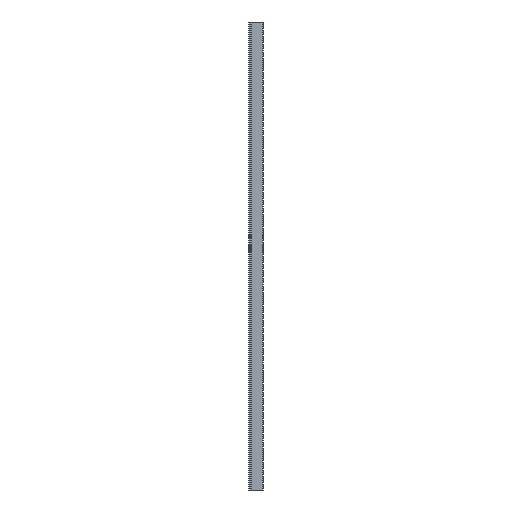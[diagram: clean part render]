
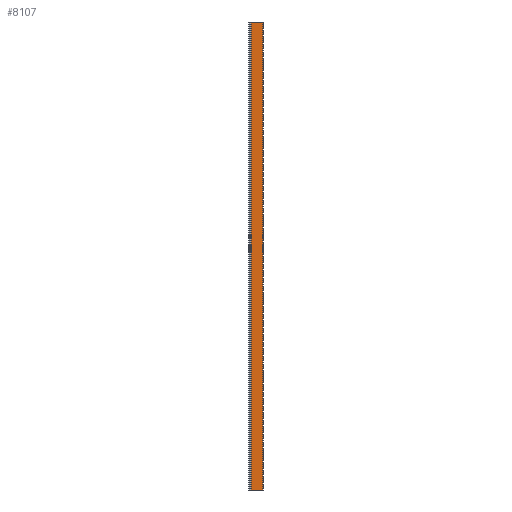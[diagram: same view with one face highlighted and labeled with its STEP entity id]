
A CAD part, left-side view. The second image highlights one B-rep face of the part: STEP entity #8107.
In plain terms, the highlighted planar face has unit normal (-1, 0, 0).
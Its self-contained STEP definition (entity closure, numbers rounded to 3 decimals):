
#35 = DIRECTION ( 'NONE',  ( 0., 0., -1. ) ) ;
#145 = LINE ( 'NONE', #16044, #12117 ) ;
#632 = CARTESIAN_POINT ( 'NONE',  ( 0., 4., -1500. ) ) ;
#690 = CARTESIAN_POINT ( 'NONE',  ( 0., 76.58, -1500. ) ) ;
#1518 = CARTESIAN_POINT ( 'NONE',  ( 0., 4., 1500. ) ) ;
#1734 = EDGE_CURVE ( 'NONE', #10797, #5211, #10825, .T. ) ;
#1843 = EDGE_CURVE ( 'NONE', #8148, #10797, #15881, .T. ) ;
#2488 = DIRECTION ( 'NONE',  ( 0., -1., 0. ) ) ;
#3751 = AXIS2_PLACEMENT_3D ( 'NONE', #11129, #16098, #2488 ) ;
#3883 = FACE_OUTER_BOUND ( 'NONE', #7539, .T. ) ;
#3905 = VECTOR ( 'NONE', #35, 1000. ) ;
#4165 = ORIENTED_EDGE ( 'NONE', *, *, #1734, .F. ) ;
#4274 = CARTESIAN_POINT ( 'NONE',  ( 0., 76.58, 1500. ) ) ;
#4329 = EDGE_CURVE ( 'NONE', #6027, #5211, #145, .T. ) ;
#4638 = DIRECTION ( 'NONE',  ( 0., 1., 0. ) ) ;
#5211 = VERTEX_POINT ( 'NONE', #690 ) ;
#6027 = VERTEX_POINT ( 'NONE', #4274 ) ;
#7539 = EDGE_LOOP ( 'NONE', ( #4165, #13531, #8273, #11548 ) ) ;
#7707 = LINE ( 'NONE', #1518, #13098 ) ;
#8107 = ADVANCED_FACE ( 'NONE', ( #3883 ), #8760, .T. ) ;
#8148 = VERTEX_POINT ( 'NONE', #15037 ) ;
#8273 = ORIENTED_EDGE ( 'NONE', *, *, #15472, .T. ) ;
#8628 = DIRECTION ( 'NONE',  ( 0., 0., -1. ) ) ;
#8760 = PLANE ( 'NONE',  #3751 ) ;
#10797 = VERTEX_POINT ( 'NONE', #10938 ) ;
#10825 = LINE ( 'NONE', #632, #13515 ) ;
#10938 = CARTESIAN_POINT ( 'NONE',  ( 0., 4.497, -1500. ) ) ;
#11129 = CARTESIAN_POINT ( 'NONE',  ( 0., 4., 1500. ) ) ;
#11548 = ORIENTED_EDGE ( 'NONE', *, *, #4329, .T. ) ;
#12117 = VECTOR ( 'NONE', #8628, 1000. ) ;
#13098 = VECTOR ( 'NONE', #13579, 1000. ) ;
#13515 = VECTOR ( 'NONE', #4638, 1000. ) ;
#13531 = ORIENTED_EDGE ( 'NONE', *, *, #1843, .F. ) ;
#13579 = DIRECTION ( 'NONE',  ( 0., 1., 0. ) ) ;
#13899 = CARTESIAN_POINT ( 'NONE',  ( 0., 4.497, 1500. ) ) ;
#15037 = CARTESIAN_POINT ( 'NONE',  ( 0., 4.497, 1500. ) ) ;
#15472 = EDGE_CURVE ( 'NONE', #8148, #6027, #7707, .T. ) ;
#15881 = LINE ( 'NONE', #13899, #3905 ) ;
#16044 = CARTESIAN_POINT ( 'NONE',  ( 0., 76.58, 1500. ) ) ;
#16098 = DIRECTION ( 'NONE',  ( -1., 0., 0. ) ) ;
